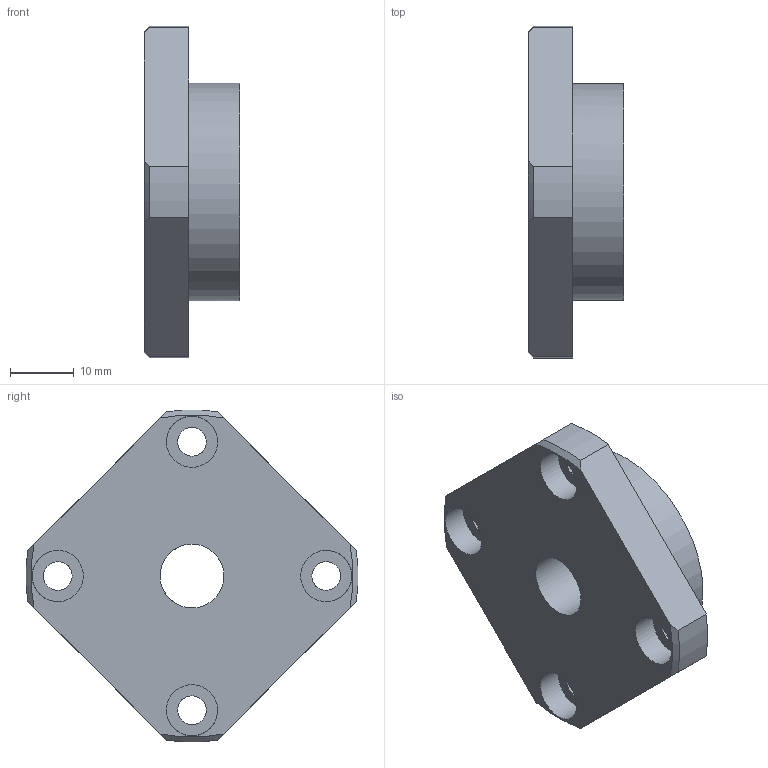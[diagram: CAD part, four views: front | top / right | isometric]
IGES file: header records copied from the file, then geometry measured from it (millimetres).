
Global section: file name: Опора фланцевая FF12 01.00; native system: Autodesk Inventor 2016; preprocessor: unknown; author: TraceParts; organization: TraceParts S.A.; date: 20170127.115825; units: millimetre
Bounding box: 15 x 51.93 x 51.93 mm (x, y, z)
Volume: 13569.5 mm3; surface area: 6484.6 mm2
Topology: 1 solids, 1 shells, 31 faces, 76 edges, 53 vertices
Faces by surface type: bspline 31
